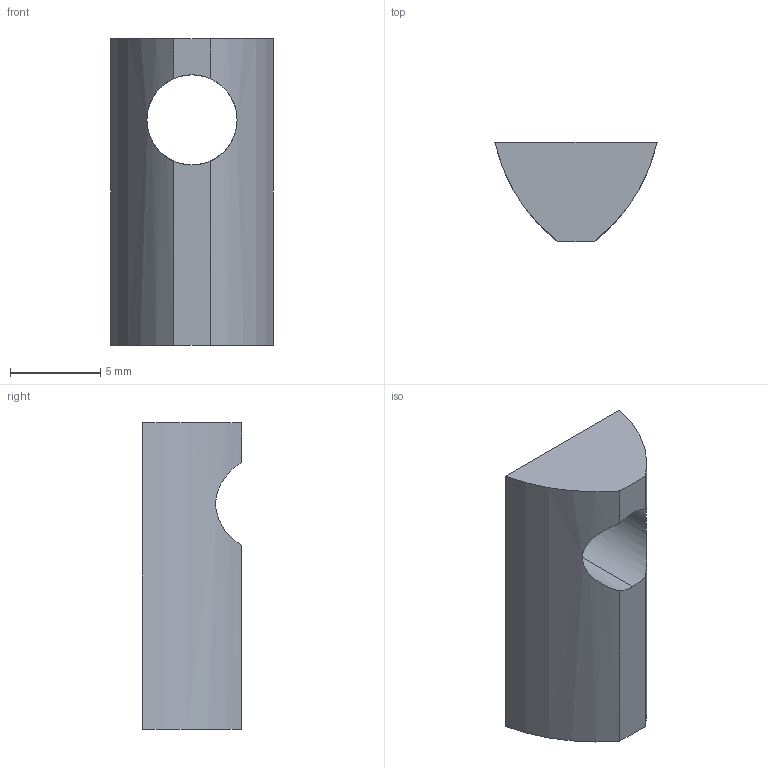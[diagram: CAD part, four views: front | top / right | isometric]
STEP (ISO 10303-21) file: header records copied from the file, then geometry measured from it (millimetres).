
FILE_DESCRIPTION (( 'STEP AP203' ), '1' );
FILE_NAME ('LIMA-LHNR6-62525.STEP', '2018-03-15T12:18:34', ( '' ), ( '' ), 'SwSTEP 2.0', 'SolidWorks 2013', '' );
FILE_SCHEMA (( 'CONFIG_CONTROL_DESIGN' ));
Length unit declared in the file: millimetre
Products named in the file (1): LIMA-LHNR6-62525
Bounding box: 9 x 5.5 x 17 mm (x, y, z)
Volume: 495.2 mm3; surface area: 512.8 mm2
Topology: 1 solids, 1 shells, 11 faces, 28 edges, 18 vertices
Faces by surface type: plane 5, cylinder 4, cone 2
Entity records: 465 total; most frequent: CARTESIAN_POINT 108, DIRECTION 62, ORIENTED_EDGE 56, EDGE_CURVE 28, AXIS2_PLACEMENT_3D 24, VERTEX_POINT 18, VECTOR 14, LINE 14
